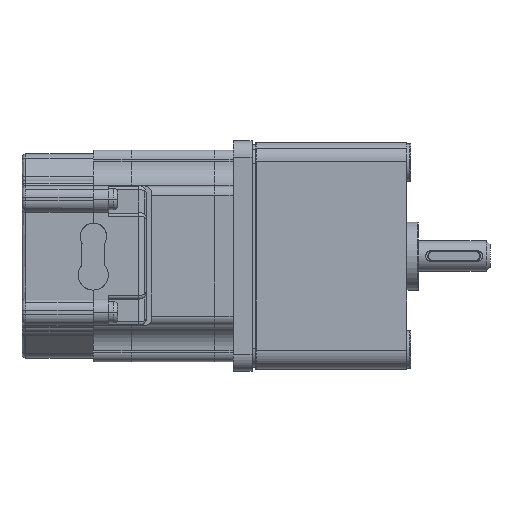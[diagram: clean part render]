
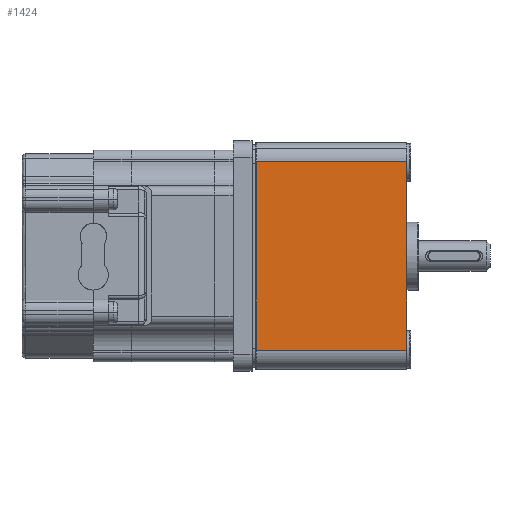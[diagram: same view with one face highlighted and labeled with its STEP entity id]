
A CAD part, top view. The second image highlights one B-rep face of the part: STEP entity #1424.
In plain terms, the highlighted planar face has unit normal (0, 0, 1).
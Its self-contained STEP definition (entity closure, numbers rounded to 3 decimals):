
#1424=ADVANCED_FACE('',(#3202),#3203,.F.);
#3202=FACE_OUTER_BOUND('',#11193,.T.);
#3203=PLANE('',#11194);
#11193=EDGE_LOOP('',(#21160,#21161,#21162,#21163));
#11194=AXIS2_PLACEMENT_3D('',#21164,#21165,#21166);
#21160=ORIENTED_EDGE('',*,*,#26644,.F.);
#21161=ORIENTED_EDGE('',*,*,#26645,.F.);
#21162=ORIENTED_EDGE('',*,*,#26646,.F.);
#21163=ORIENTED_EDGE('',*,*,#26570,.F.);
#21164=CARTESIAN_POINT('',(745.449,108.8,20.46));
#21165=DIRECTION('',(0.,0.,-1.0));
#21166=DIRECTION('',(-1.0,0.,0.));
#26570=EDGE_CURVE('',#30056,#30058,#30059,.T.);
#26644=EDGE_CURVE('',#30165,#30056,#30166,.T.);
#26645=EDGE_CURVE('',#30167,#30165,#30168,.T.);
#26646=EDGE_CURVE('',#30058,#30167,#30169,.T.);
#30056=VERTEX_POINT('',#73282);
#30058=VERTEX_POINT('',#73284);
#30059=LINE('',#73285,#73286);
#30165=VERTEX_POINT('',#74109);
#30166=LINE('',#74110,#74111);
#30167=VERTEX_POINT('',#74112);
#30168=LINE('',#74113,#74114);
#30169=LINE('',#74115,#74116);
#73282=CARTESIAN_POINT('',(725.549,133.8,20.46));
#73284=CARTESIAN_POINT('',(765.349,133.8,20.46));
#73285=CARTESIAN_POINT('',(745.449,133.8,20.46));
#73286=VECTOR('',#93744,1.0);
#74109=CARTESIAN_POINT('',(725.549,83.8,20.46));
#74110=CARTESIAN_POINT('',(725.549,108.8,20.46));
#74111=VECTOR('',#93828,1.0);
#74112=CARTESIAN_POINT('',(765.349,83.8,20.46));
#74113=CARTESIAN_POINT('',(745.449,83.8,20.46));
#74114=VECTOR('',#93829,1.0);
#74115=CARTESIAN_POINT('',(765.349,108.8,20.46));
#74116=VECTOR('',#93830,1.0);
#93744=DIRECTION('',(1.0,0.,0.));
#93828=DIRECTION('',(0.,1.0,0.0));
#93829=DIRECTION('',(-1.0,0.,0.));
#93830=DIRECTION('',(0.,-1.0,0.0));
